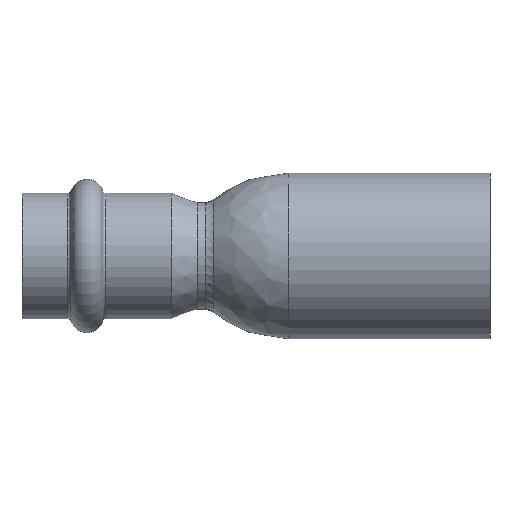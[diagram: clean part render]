
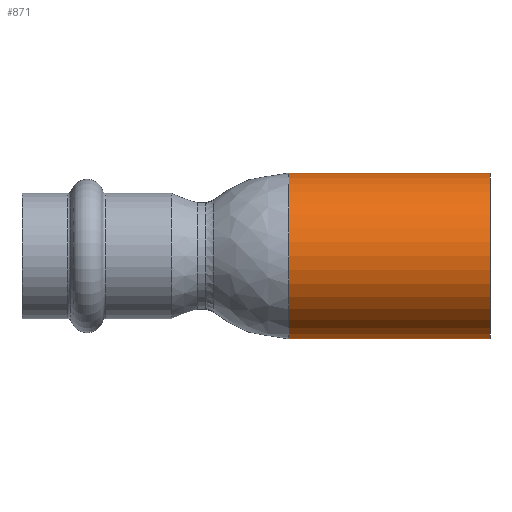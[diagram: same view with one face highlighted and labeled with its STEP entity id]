
A CAD part, front view. The second image highlights one B-rep face of the part: STEP entity #871.
In plain terms, the highlighted cylindrical face has radius 14 mm (diameter 28 mm), a full revolution.
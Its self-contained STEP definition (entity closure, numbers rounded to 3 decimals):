
#601=CARTESIAN_POINT('',(-34.0,14.,0.0));
#602=VERTEX_POINT('',#601);
#603=CARTESIAN_POINT('',(-34.0,0.,0.0));
#604=DIRECTION('',(1.0,0.0,0.0));
#605=DIRECTION('',(0.0,1.0,0.0));
#606=AXIS2_PLACEMENT_3D('',#603,#604,#605);
#607=CIRCLE('',#606,14.);
#608=EDGE_CURVE('',#602,#602,#607,.T.);
#852=CARTESIAN_POINT('',(-17.0,0.,0.0));
#853=DIRECTION('',(1.0,0.,0.0));
#854=DIRECTION('',(0.0,1.0,0.0));
#855=AXIS2_PLACEMENT_3D('',#852,#853,#854);
#856=CYLINDRICAL_SURFACE('',#855,14.);
#857=CARTESIAN_POINT('',(0.,14.,0.0));
#858=VERTEX_POINT('',#857);
#859=CARTESIAN_POINT('',(0.0,0.0,0.0));
#860=DIRECTION('',(1.0,0.0,0.0));
#861=DIRECTION('',(0.0,1.0,0.0));
#862=AXIS2_PLACEMENT_3D('',#859,#860,#861);
#863=CIRCLE('',#862,14.);
#864=EDGE_CURVE('',#858,#858,#863,.T.);
#865=ORIENTED_EDGE('',*,*,#864,.F.);
#866=EDGE_LOOP('',(#865));
#867=FACE_OUTER_BOUND('',#866,.T.);
#868=ORIENTED_EDGE('',*,*,#608,.T.);
#869=EDGE_LOOP('',(#868));
#870=FACE_BOUND('',#869,.T.);
#871=ADVANCED_FACE('',(#867,#870),#856,.T.);
